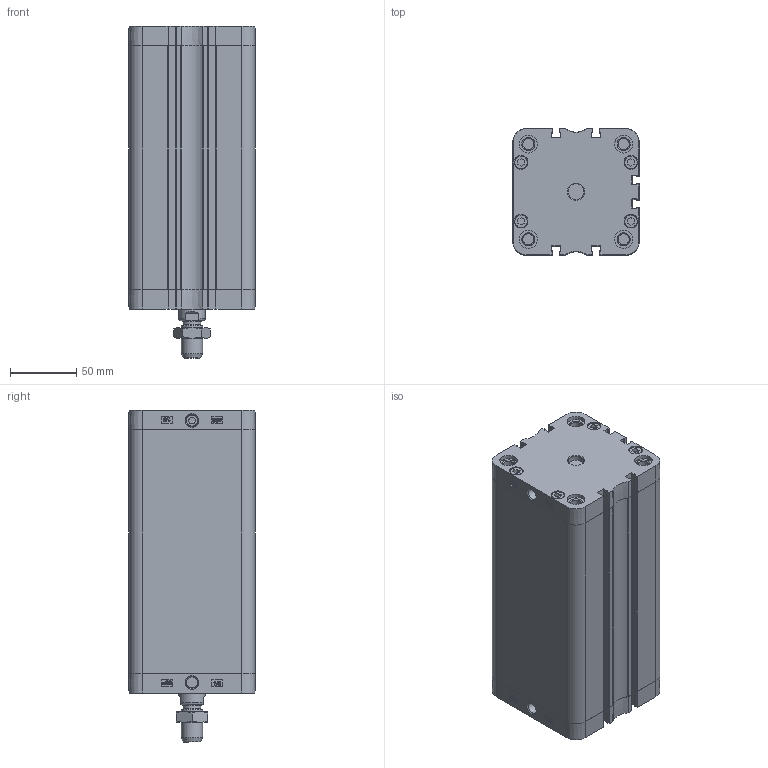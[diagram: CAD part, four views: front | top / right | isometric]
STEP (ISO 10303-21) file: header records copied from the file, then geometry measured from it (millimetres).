
FILE_DESCRIPTION(/* description */ ('Unknown'),/* implementation_level */ '2;1');
FILE_NAME(/* name */ 'ZIF 80_160',/* time_stamp */ '2024-11-12T12:41:59+01:00',/* author */ ('Unknown'),/* organization */ ('HAFNER Pneumatika Kft.'),/* preprocessor_version */ 'ST-DEVELOPER v18.102',/* originating_system */ 'Solid Edge',/* authorisation */ 'Unknown');
FILE_SCHEMA (('PROCESS_PLANNING_SCHEMA','AUTOMOTIVE_DESIGN {1 0 10303 214 3 1 1}'));
Length unit declared in the file: millimetre
Products named in the file (6): ZIF 80_160; Kit_1; Kit_2; Profilrohr; Mutter; Kolbenstange
Assembly tree (5 placements, depth 2):
  ZIF 80_160
    Kit_1
    Kit_2
    Profilrohr
    Mutter
    Kolbenstange
Bounding box: 95.5 x 95.5 x 251 mm (x, y, z)
Volume: 1113033.5 mm3; surface area: 223355.1 mm2
Topology: 5 solids, 5 shells, 756 faces, 1996 edges, 1320 vertices
Faces by surface type: plane 349, cylinder 209, bspline 122, cone 55, torus 21
Full cylindrical faces by diameter (mm): 5 x1, 8.376 x8, 8.566 x2, 9.8 x8, 10.3 x8, 12 x1, 13.5 x9, 14.376 x1, 16 x1, 20 x1, 20.6 x1, 21.9 x1, 23 x1, 25 x1, 80 x2
Entity records: 28184 total; most frequent: CARTESIAN_POINT 5863, ORIENTED_EDGE 3730, DIRECTION 3358, EDGE_CURVE 1865, VERTEX_POINT 1289, AXIS2_PLACEMENT_3D 1142, LINE 1074, VECTOR 1074
